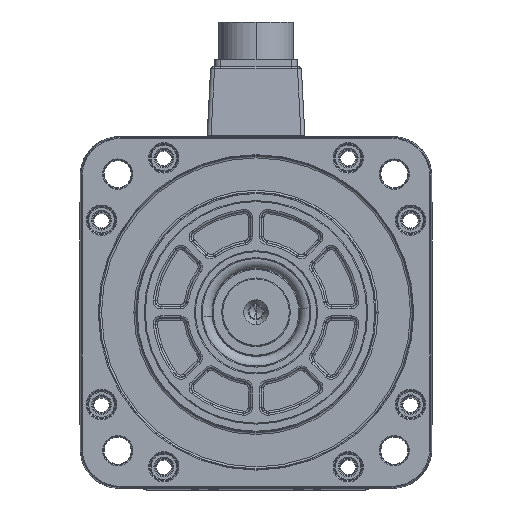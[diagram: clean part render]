
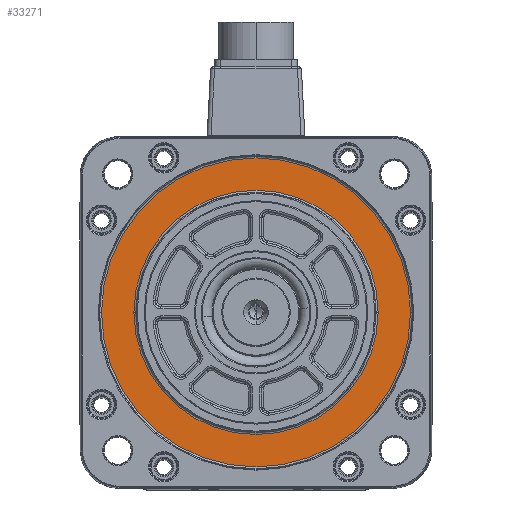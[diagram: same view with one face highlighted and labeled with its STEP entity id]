
A CAD part, top view. The second image highlights one B-rep face of the part: STEP entity #33271.
In plain terms, the highlighted planar face has unit normal (0, 0, 1).
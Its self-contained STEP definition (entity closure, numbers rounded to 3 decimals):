
#3513 = AXIS2_PLACEMENT_3D ( 'NONE', #112285, #6911, #49192 ) ;
#3724 = CARTESIAN_POINT ( 'NONE',  ( 79.034, 0., 15. ) ) ;
#6911 = DIRECTION ( 'NONE',  ( 0., 0., -1. ) ) ;
#11595 = DIRECTION ( 'NONE',  ( 1., 0., 0. ) ) ;
#12283 = DIRECTION ( 'NONE',  ( 0., 0., 1. ) ) ;
#14053 = FACE_BOUND ( 'NONE', #120549, .T. ) ;
#19207 = AXIS2_PLACEMENT_3D ( 'NONE', #57347, #76798, #100300 ) ;
#21370 = CARTESIAN_POINT ( 'NONE',  ( -79.034, 0., 15. ) ) ;
#32549 = DIRECTION ( 'NONE',  ( 1., 0., 0. ) ) ;
#33271 = ADVANCED_FACE ( 'NONE', ( #45953, #14053 ), #57710, .T. ) ;
#33824 = EDGE_CURVE ( 'NONE', #136848, #77517, #123062, .T. ) ;
#34123 = EDGE_LOOP ( 'NONE', ( #58333, #135176 ) ) ;
#36936 = DIRECTION ( 'NONE',  ( 0., 0., 1. ) ) ;
#42126 = CARTESIAN_POINT ( 'NONE',  ( 0., 0., 15. ) ) ;
#45953 = FACE_OUTER_BOUND ( 'NONE', #34123, .T. ) ;
#49192 = DIRECTION ( 'NONE',  ( 1., 0., 0. ) ) ;
#49519 = VERTEX_POINT ( 'NONE', #3724 ) ;
#53011 = EDGE_CURVE ( 'NONE', #115348, #49519, #102474, .T. ) ;
#57347 = CARTESIAN_POINT ( 'NONE',  ( 0., 0., 15. ) ) ;
#57710 = PLANE ( 'NONE',  #65370 ) ;
#58333 = ORIENTED_EDGE ( 'NONE', *, *, #122313, .T. ) ;
#61954 = EDGE_CURVE ( 'NONE', #77517, #136848, #78943, .T. ) ;
#65370 = AXIS2_PLACEMENT_3D ( 'NONE', #119427, #36936, #68151 ) ;
#68151 = DIRECTION ( 'NONE',  ( 1., 0., 0. ) ) ;
#74251 = CARTESIAN_POINT ( 'NONE',  ( 62.466, 0., 15. ) ) ;
#76798 = DIRECTION ( 'NONE',  ( 0., 0., -1. ) ) ;
#77517 = VERTEX_POINT ( 'NONE', #74251 ) ;
#78943 = CIRCLE ( 'NONE', #19207, 62.466 ) ;
#81287 = AXIS2_PLACEMENT_3D ( 'NONE', #42126, #12283, #11595 ) ;
#82472 = DIRECTION ( 'NONE',  ( 0., 0., 1. ) ) ;
#100300 = DIRECTION ( 'NONE',  ( 1., 0., 0. ) ) ;
#102474 = CIRCLE ( 'NONE', #120186, 79.034 ) ;
#105720 = CARTESIAN_POINT ( 'NONE',  ( -62.466, 0., 15. ) ) ;
#112285 = CARTESIAN_POINT ( 'NONE',  ( 0., 0., 15. ) ) ;
#115348 = VERTEX_POINT ( 'NONE', #21370 ) ;
#119427 = CARTESIAN_POINT ( 'NONE',  ( 0., 0., 15. ) ) ;
#120186 = AXIS2_PLACEMENT_3D ( 'NONE', #135191, #82472, #32549 ) ;
#120549 = EDGE_LOOP ( 'NONE', ( #127620, #122654 ) ) ;
#122313 = EDGE_CURVE ( 'NONE', #49519, #115348, #132274, .T. ) ;
#122654 = ORIENTED_EDGE ( 'NONE', *, *, #33824, .T. ) ;
#123062 = CIRCLE ( 'NONE', #3513, 62.466 ) ;
#127620 = ORIENTED_EDGE ( 'NONE', *, *, #61954, .T. ) ;
#132274 = CIRCLE ( 'NONE', #81287, 79.034 ) ;
#135176 = ORIENTED_EDGE ( 'NONE', *, *, #53011, .T. ) ;
#135191 = CARTESIAN_POINT ( 'NONE',  ( 0., 0., 15. ) ) ;
#136848 = VERTEX_POINT ( 'NONE', #105720 ) ;
